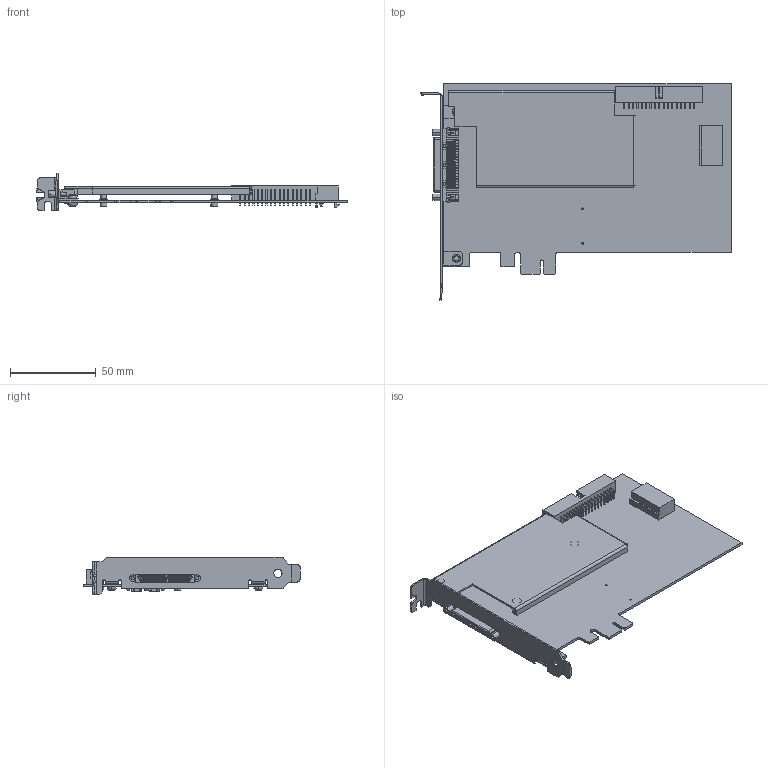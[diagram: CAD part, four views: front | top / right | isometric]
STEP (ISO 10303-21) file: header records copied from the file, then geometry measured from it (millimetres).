
FILE_DESCRIPTION((''),'2;1');
FILE_NAME('CU_PCIE_X-SERIES_1VHDCI','2011-04-18T',('dkendric'),(''),'PRO/ENGINEER BY PARAMETRIC TECHNOLOGY CORPORATION, 2010230','PRO/ENGINEER BY PARAMETRIC TECHNOLOGY CORPORATION, 2010230','');
FILE_SCHEMA(('CONFIG_CONTROL_DESIGN'));
Products named in the file (1): CU_PCIE_X-SERIES_1VHDCI
Bounding box: 180.92 x 126.32 x 21.59 mm (x, y, z)
Volume: 40404.3 mm3; surface area: 59327.5 mm2
Topology: 1 solids, 3 shells, 2643 faces, 7030 edges, 4584 vertices
Faces by surface type: plane 2123, cylinder 448, bspline 28, cone 28, torus 8, sphere 8
Entity records: 83025 total; most frequent: CARTESIAN_POINT 16050, ORIENTED_EDGE 14044, DIRECTION 13164, EDGE_CURVE 7022, VECTOR 5946, LINE 5946, VERTEX_POINT 4622, AXIS2_PLACEMENT_3D 3609
